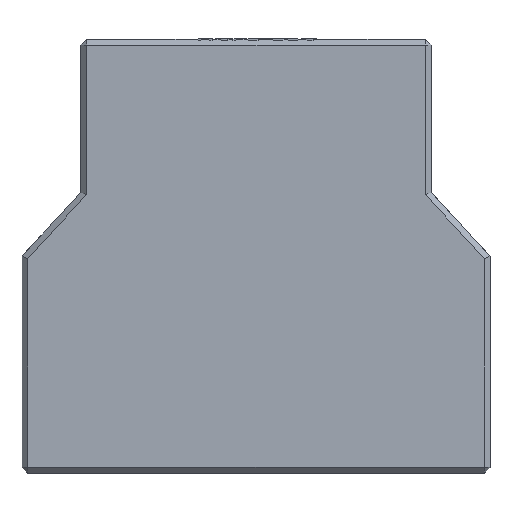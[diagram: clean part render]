
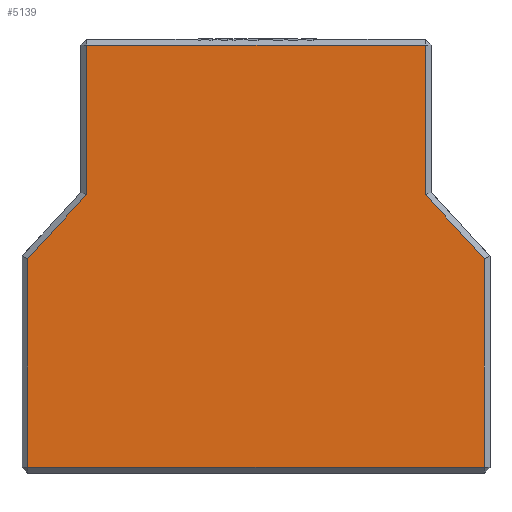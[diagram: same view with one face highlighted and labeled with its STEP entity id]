
A CAD part, left-side view. The second image highlights one B-rep face of the part: STEP entity #5139.
In plain terms, the highlighted planar face has unit normal (-1, 0, 0).
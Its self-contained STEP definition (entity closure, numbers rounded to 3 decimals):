
#350=FACE_OUTER_BOUND('',#637,.T.);
#637=EDGE_LOOP('',(#3529,#3530,#3531,#3532,#3533,#3534,#3535,#3536));
#913=LINE('',#6867,#1486);
#918=LINE('',#6878,#1491);
#923=LINE('',#6889,#1496);
#935=LINE('',#6915,#1508);
#941=LINE('',#6926,#1514);
#968=LINE('',#7063,#1541);
#1005=LINE('',#7164,#1578);
#1010=LINE('',#7173,#1583);
#1486=VECTOR('',#5711,10.);
#1491=VECTOR('',#5720,10.);
#1496=VECTOR('',#5729,10.);
#1508=VECTOR('',#5749,10.);
#1514=VECTOR('',#5757,10.);
#1541=VECTOR('',#5788,10.);
#1578=VECTOR('',#5835,10.);
#1583=VECTOR('',#5844,10.);
#2049=VERTEX_POINT('',#6846);
#2056=VERTEX_POINT('',#6862);
#2060=VERTEX_POINT('',#6877);
#2064=VERTEX_POINT('',#6888);
#2071=VERTEX_POINT('',#6904);
#2074=VERTEX_POINT('',#6911);
#2110=VERTEX_POINT('',#7062);
#2142=VERTEX_POINT('',#7163);
#2572=EDGE_CURVE('',#2049,#2056,#913,.T.);
#2577=EDGE_CURVE('',#2056,#2060,#918,.T.);
#2582=EDGE_CURVE('',#2060,#2064,#923,.T.);
#2594=EDGE_CURVE('',#2064,#2074,#935,.T.);
#2600=EDGE_CURVE('',#2074,#2071,#941,.T.);
#2635=EDGE_CURVE('',#2071,#2110,#968,.T.);
#2675=EDGE_CURVE('',#2110,#2142,#1005,.T.);
#2680=EDGE_CURVE('',#2142,#2049,#1010,.T.);
#3529=ORIENTED_EDGE('',*,*,#2572,.F.);
#3530=ORIENTED_EDGE('',*,*,#2680,.F.);
#3531=ORIENTED_EDGE('',*,*,#2675,.F.);
#3532=ORIENTED_EDGE('',*,*,#2635,.F.);
#3533=ORIENTED_EDGE('',*,*,#2600,.F.);
#3534=ORIENTED_EDGE('',*,*,#2594,.F.);
#3535=ORIENTED_EDGE('',*,*,#2582,.F.);
#3536=ORIENTED_EDGE('',*,*,#2577,.F.);
#4917=PLANE('',#5432);
#5139=ADVANCED_FACE('',(#350),#4917,.F.);
#5432=AXIS2_PLACEMENT_3D('',#7214,#5893,#5894);
#5711=DIRECTION('',(0.,1.,0.));
#5720=DIRECTION('',(0.,0.,1.));
#5729=DIRECTION('',(0.,-0.678,0.735));
#5749=DIRECTION('',(0.,0.,1.));
#5757=DIRECTION('',(0.,-1.,0.));
#5788=DIRECTION('',(0.,0.,-1.));
#5835=DIRECTION('',(0.,-0.678,-0.735));
#5844=DIRECTION('',(0.,0.,-1.));
#5893=DIRECTION('center_axis',(1.,0.,0.));
#5894=DIRECTION('ref_axis',(0.,0.,-1.));
#6846=CARTESIAN_POINT('',(0.,1.,1.));
#6862=CARTESIAN_POINT('',(0.,81.,1.));
#6867=CARTESIAN_POINT('',(0.,20.5,1.));
#6877=CARTESIAN_POINT('',(0.,81.,37.609));
#6878=CARTESIAN_POINT('',(0.,81.,17.783));
#6888=CARTESIAN_POINT('',(0.,70.687,48.79));
#6889=CARTESIAN_POINT('',(0.,72.447,46.881));
#6904=CARTESIAN_POINT('',(0.,11.313,75.));
#6911=CARTESIAN_POINT('',(0.,70.687,75.));
#6915=CARTESIAN_POINT('',(0.,70.687,42.373));
#6926=CARTESIAN_POINT('',(0.,56.343,75.));
#7062=CARTESIAN_POINT('',(0.,11.313,48.79));
#7063=CARTESIAN_POINT('',(0.,11.313,55.783));
#7163=CARTESIAN_POINT('',(0.,1.,37.609));
#7164=CARTESIAN_POINT('',(0.,14.709,52.471));
#7173=CARTESIAN_POINT('',(0.,1.,36.783));
#7214=CARTESIAN_POINT('Origin',(0.,41.,35.565));
